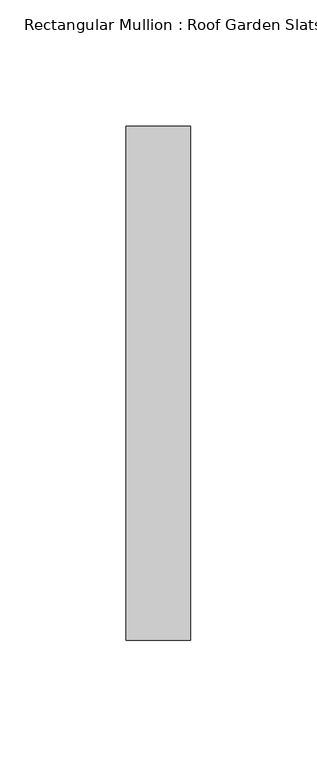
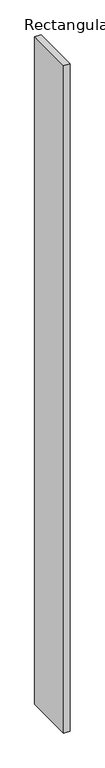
"""IFC4 building model written with IfcOpenShell, lengths in millimetres: member geometry, Rectangular Mullion : Roof Garden Slats."""

from ifc_helpers import new_model, si_unit, frame, origin, place, context, project, spatial, polyline, outline, extrude, source, transform, mapped, element, save


def rectangular_mullion_roof_garden_slats_13f860f6(model_context):
    return source(origin(), model_context, "Body", "SweptSolid", [
        extrude(outline(polyline([(0.0, 139.7), (0.0, -63.5), (-25.4, -63.5), (-25.4, 139.7), (0.0, 139.7)])), frame((0.0, 0.0, -2854.9944352), z_axis=(0.0, 0.0, 1.0), x_axis=(1.0, 0.0, 0.0)), (0.0, 0.0, 1.0), 2854.9944352),
    ])


if __name__ == "__main__":
    model = new_model("IFC4")
    model_context = context("Model", 3, world=origin())
    ifc_project = project(units=[si_unit("LENGTHUNIT", "METRE", prefix="MILLI")], contexts=[model_context])
    site = spatial("IfcSite", under=ifc_project)
    building = spatial("IfcBuilding", under=site)
    placement = place(None, origin())
    rectangular_mullion_roof_garden_slats_shape = rectangular_mullion_roof_garden_slats_13f860f6(model_context)
    element("IfcMember", 1, ObjectType="Rectangular Mullion : Roof Garden Slats", at=placement, inside=building, context=model_context, shape_type="MappedRepresentation", body=[
        mapped(rectangular_mullion_roof_garden_slats_shape, transform((0.0, 0.0, 0.0), x_axis=(1.0, 0.0, 0.0), y_axis=(0.0, 1.0, 0.0), z_axis=(0.0, 0.0, 1.0))),
    ])
    save(model, "model.ifc")
